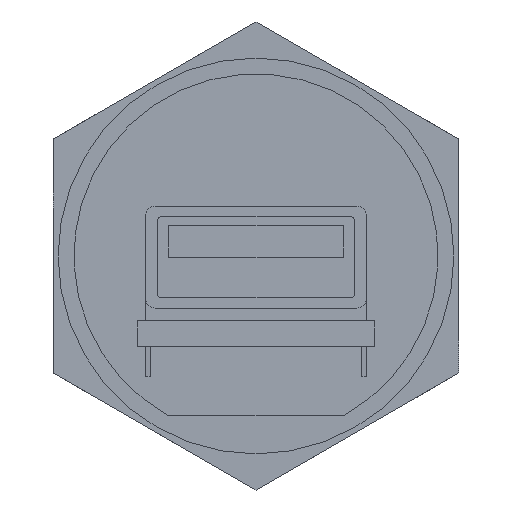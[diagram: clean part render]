
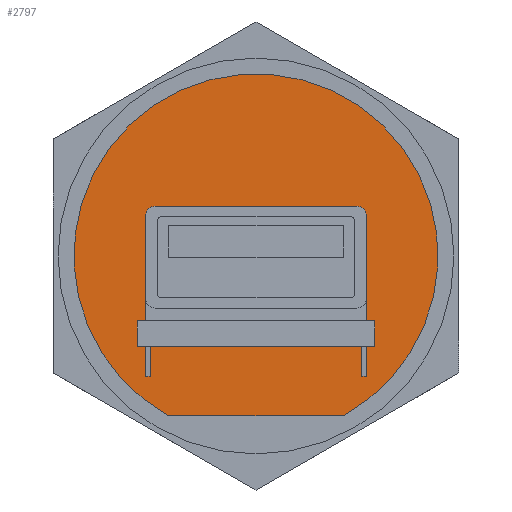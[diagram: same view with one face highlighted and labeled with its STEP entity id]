
A CAD part, left-side view. The second image highlights one B-rep face of the part: STEP entity #2797.
In plain terms, the highlighted planar face has unit normal (-1, 0, 0).
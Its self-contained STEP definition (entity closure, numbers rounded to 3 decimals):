
#283=LINE('',#7221,#494);
#332=LINE('',#7377,#543);
#336=LINE('',#7385,#547);
#340=LINE('',#7391,#551);
#362=LINE('',#7446,#573);
#494=VECTOR('',#3308,1.);
#543=VECTOR('',#3461,1.);
#547=VECTOR('',#3469,1.);
#551=VECTOR('',#3475,1.);
#573=VECTOR('',#3533,1.);
#690=FACE_BOUND('',#980,.T.);
#815=FACE_OUTER_BOUND('',#979,.T.);
#979=EDGE_LOOP('',(#2414,#2415));
#980=EDGE_LOOP('',(#2416,#2417,#2418,#2419));
#1067=CIRCLE('',#3062,11.5);
#1232=VERTEX_POINT('',#7218);
#1233=VERTEX_POINT('',#7220);
#1288=VERTEX_POINT('',#7376);
#1290=VERTEX_POINT('',#7384);
#1304=VERTEX_POINT('',#7440);
#1306=VERTEX_POINT('',#7444);
#1579=EDGE_CURVE('',#1233,#1232,#283,.T.);
#1657=EDGE_CURVE('',#1288,#1233,#332,.T.);
#1661=EDGE_CURVE('',#1288,#1290,#336,.T.);
#1665=EDGE_CURVE('',#1290,#1232,#340,.T.);
#1690=EDGE_CURVE('',#1304,#1306,#362,.T.);
#1693=EDGE_CURVE('',#1306,#1304,#1067,.T.);
#2414=ORIENTED_EDGE('',*,*,#1690,.T.);
#2415=ORIENTED_EDGE('',*,*,#1693,.T.);
#2416=ORIENTED_EDGE('',*,*,#1661,.F.);
#2417=ORIENTED_EDGE('',*,*,#1657,.T.);
#2418=ORIENTED_EDGE('',*,*,#1579,.T.);
#2419=ORIENTED_EDGE('',*,*,#1665,.F.);
#2651=PLANE('',#3061);
#2797=ADVANCED_FACE('',(#815,#690),#2651,.T.);
#3061=AXIS2_PLACEMENT_3D('',#7451,#3540,#3541);
#3062=AXIS2_PLACEMENT_3D('',#7452,#3542,#3543);
#3308=DIRECTION('',(0.,-1.,0.));
#3461=DIRECTION('',(0.,0.,1.));
#3469=DIRECTION('',(0.,-1.,0.));
#3475=DIRECTION('',(0.,0.,1.));
#3533=DIRECTION('',(0.,-1.,0.));
#3540=DIRECTION('center_axis',(-1.,0.,0.));
#3541=DIRECTION('ref_axis',(0.,0.,1.));
#3542=DIRECTION('center_axis',(-1.,0.,0.));
#3543=DIRECTION('ref_axis',(0.,0.,1.));
#7218=CARTESIAN_POINT('',(-21.9,-7.5,-4.1));
#7220=CARTESIAN_POINT('',(-21.9,7.5,-4.1));
#7221=CARTESIAN_POINT('',(-21.9,7.6,-4.1));
#7376=CARTESIAN_POINT('',(-21.9,7.5,-5.7));
#7377=CARTESIAN_POINT('',(-21.9,7.5,-5.7));
#7384=CARTESIAN_POINT('',(-21.9,-7.5,-5.7));
#7385=CARTESIAN_POINT('',(-21.9,7.6,-5.7));
#7391=CARTESIAN_POINT('',(-21.9,-7.5,-5.7));
#7440=CARTESIAN_POINT('',(-21.9,5.499,-10.1));
#7444=CARTESIAN_POINT('',(-21.9,-5.499,-10.1));
#7446=CARTESIAN_POINT('',(-21.9,10.188,-10.1));
#7451=CARTESIAN_POINT('Origin',(-21.9,0.,0.));
#7452=CARTESIAN_POINT('Origin',(-21.9,0.,0.));
